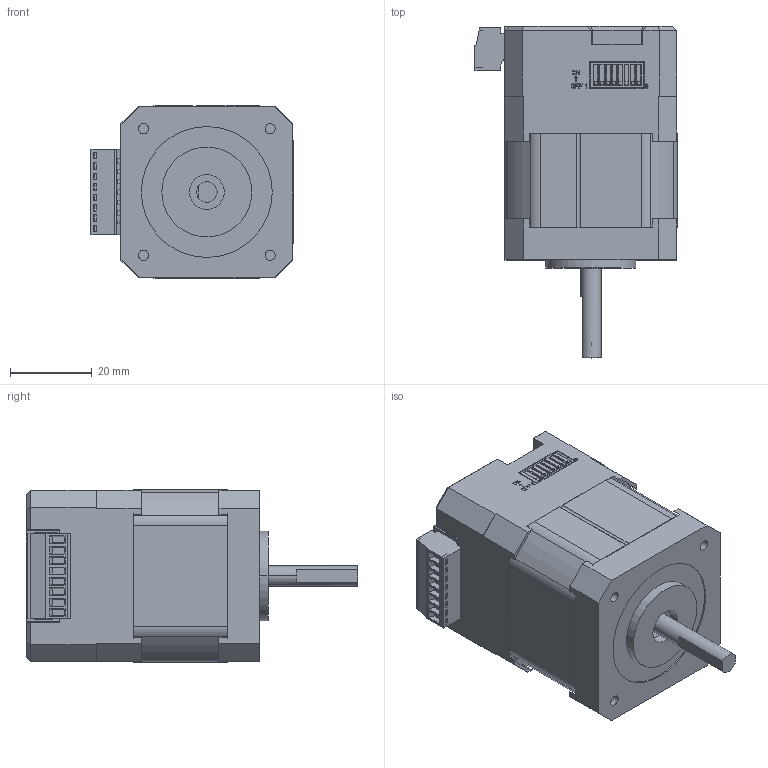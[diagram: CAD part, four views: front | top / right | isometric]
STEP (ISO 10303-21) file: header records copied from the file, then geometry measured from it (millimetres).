
FILE_DESCRIPTION((''),'2;1');
FILE_NAME('IT42AM04-D0524-24V-M','2025-01-09T14:05:16',('ruiwe'),(''),'CREO PARAMETRIC BY PTC INC, 2021063','CREO PARAMETRIC BY PTC INC, 2021063','');
FILE_SCHEMA(('CONFIG_CONTROL_DESIGN','SHAPE_APPEARANCE_LAYERS_GROUPS'));
Products named in the file (1): IT42AM04-D0524-24V-M
Bounding box: 49.45 x 81.2 x 42.2 mm (x, y, z)
Volume: 60133.9 mm3; surface area: 39682.6 mm2
Topology: 4 solids, 161 shells, 1851 faces, 6556 edges, 4895 vertices
Faces by surface type: plane 1358, cylinder 372, torus 56, cone 34, sphere 17, bspline 14
Entity records: 91465 total; most frequent: CARTESIAN_POINT 17492, ORIENTED_EDGE 11202, DIRECTION 10407, EDGE_CURVE 6556, VECTOR 4895, LINE 4895, VERTEX_POINT 4895, PRESENTATION_STYLE_ASSIGNMENT 3761
